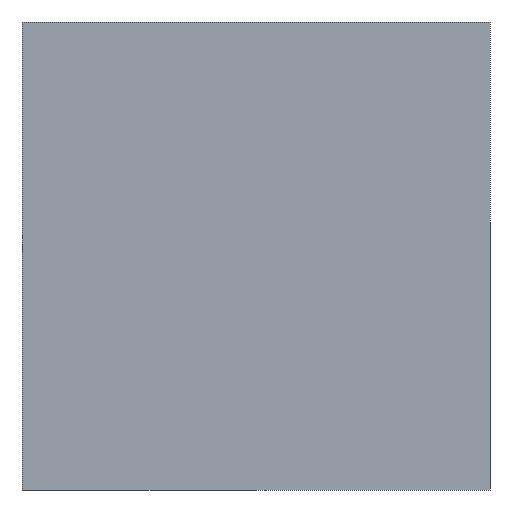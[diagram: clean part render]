
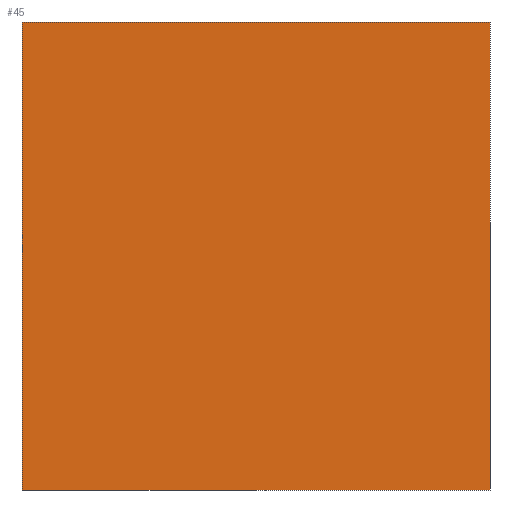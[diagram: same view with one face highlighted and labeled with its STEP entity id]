
A CAD part, left-side view. The second image highlights one B-rep face of the part: STEP entity #45.
In plain terms, the highlighted planar face has unit normal (-1, 0, 0).
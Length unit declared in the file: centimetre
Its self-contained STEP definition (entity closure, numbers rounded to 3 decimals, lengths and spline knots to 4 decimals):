
#7 = ORIENTED_EDGE ( 'NONE', *, *, #412, .F. ) ;
#11 = LINE ( 'NONE', #293, #259 ) ;
#31 = DIRECTION ( 'NONE',  ( 0., -1., 0. ) ) ;
#35 = VECTOR ( 'NONE', #31, 100. ) ;
#37 = VECTOR ( 'NONE', #128, 100. ) ;
#45 = ADVANCED_FACE ( 'NONE', ( #337 ), #60, .F. ) ;
#55 = CARTESIAN_POINT ( 'NONE',  ( 0., 0., 1000. ) ) ;
#58 = DIRECTION ( 'NONE',  ( 0., 0., -1. ) ) ;
#60 = PLANE ( 'NONE',  #320 ) ;
#65 = LINE ( 'NONE', #68, #35 ) ;
#68 = CARTESIAN_POINT ( 'NONE',  ( 0., 1000., 1000. ) ) ;
#95 = EDGE_CURVE ( 'NONE', #363, #410, #197, .T. ) ;
#122 = ORIENTED_EDGE ( 'NONE', *, *, #95, .T. ) ;
#125 = EDGE_CURVE ( 'NONE', #410, #296, #11, .T. ) ;
#128 = DIRECTION ( 'NONE',  ( 0., 0., -1. ) ) ;
#165 = LINE ( 'NONE', #235, #331 ) ;
#197 = LINE ( 'NONE', #401, #37 ) ;
#220 = DIRECTION ( 'NONE',  ( 0., -1., 0. ) ) ;
#230 = ORIENTED_EDGE ( 'NONE', *, *, #298, .F. ) ;
#235 = CARTESIAN_POINT ( 'NONE',  ( 0., 0., 1000. ) ) ;
#251 = CARTESIAN_POINT ( 'NONE',  ( 0., 1000., 0. ) ) ;
#259 = VECTOR ( 'NONE', #220, 100. ) ;
#272 = CARTESIAN_POINT ( 'NONE',  ( 0., 1000., 1000. ) ) ;
#293 = CARTESIAN_POINT ( 'NONE',  ( 0., 1000., 0. ) ) ;
#296 = VERTEX_POINT ( 'NONE', #402 ) ;
#298 = EDGE_CURVE ( 'NONE', #391, #296, #165, .T. ) ;
#310 = DIRECTION ( 'NONE',  ( 0., 0., -1. ) ) ;
#320 = AXIS2_PLACEMENT_3D ( 'NONE', #346, #440, #310 ) ;
#331 = VECTOR ( 'NONE', #58, 100. ) ;
#337 = FACE_OUTER_BOUND ( 'NONE', #355, .T. ) ;
#346 = CARTESIAN_POINT ( 'NONE',  ( 0., 1000., 1000. ) ) ;
#355 = EDGE_LOOP ( 'NONE', ( #430, #230, #7, #122 ) ) ;
#363 = VERTEX_POINT ( 'NONE', #272 ) ;
#391 = VERTEX_POINT ( 'NONE', #55 ) ;
#401 = CARTESIAN_POINT ( 'NONE',  ( 0., 1000., 1000. ) ) ;
#402 = CARTESIAN_POINT ( 'NONE',  ( 0., 0., 0. ) ) ;
#410 = VERTEX_POINT ( 'NONE', #251 ) ;
#412 = EDGE_CURVE ( 'NONE', #363, #391, #65, .T. ) ;
#430 = ORIENTED_EDGE ( 'NONE', *, *, #125, .T. ) ;
#440 = DIRECTION ( 'NONE',  ( 1., 0., 0. ) ) ;
